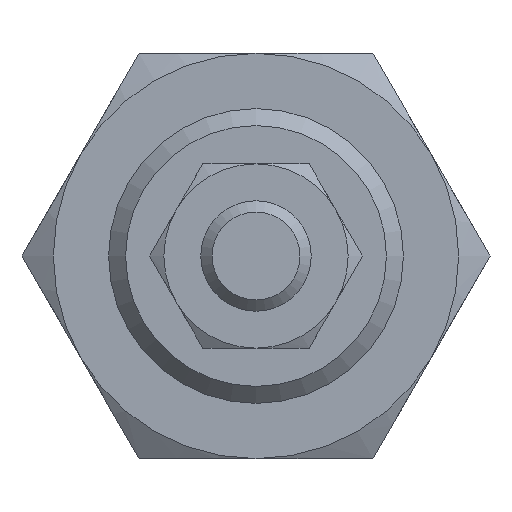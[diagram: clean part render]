
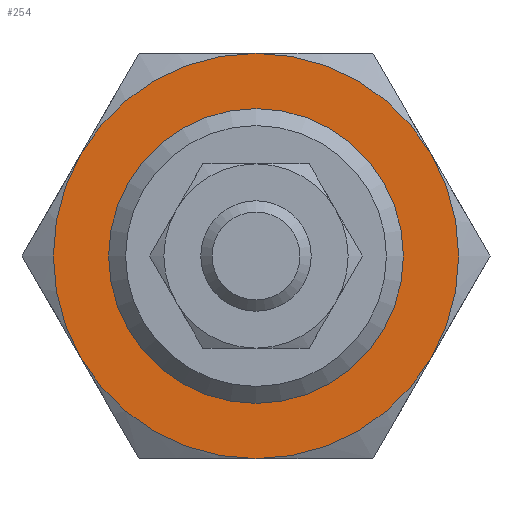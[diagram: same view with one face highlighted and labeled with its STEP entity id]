
A CAD part, left-side view. The second image highlights one B-rep face of the part: STEP entity #254.
In plain terms, the highlighted planar face has unit normal (-1, 0, 0).
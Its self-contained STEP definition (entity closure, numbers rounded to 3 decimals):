
#254 = ADVANCED_FACE( '', ( #586, #587 ), #588, .F. );
#586 = FACE_OUTER_BOUND( '', #1030, .T. );
#587 = FACE_BOUND( '', #1031, .T. );
#588 = PLANE( '', #1032 );
#1030 = EDGE_LOOP( '', ( #1593, #1594, #1595, #1596, #1597, #1598 ) );
#1031 = EDGE_LOOP( '', ( #1599 ) );
#1032 = AXIS2_PLACEMENT_3D( '', #1600, #1601, #1602 );
#1593 = ORIENTED_EDGE( '', *, *, #2437, .F. );
#1594 = ORIENTED_EDGE( '', *, *, #2488, .F. );
#1595 = ORIENTED_EDGE( '', *, *, #2526, .F. );
#1596 = ORIENTED_EDGE( '', *, *, #2527, .F. );
#1597 = ORIENTED_EDGE( '', *, *, #2528, .F. );
#1598 = ORIENTED_EDGE( '', *, *, #2529, .F. );
#1599 = ORIENTED_EDGE( '', *, *, #2530, .T. );
#1600 = CARTESIAN_POINT( '', ( -10., 0., 0. ) );
#1601 = DIRECTION( '', ( 1., 0., 0. ) );
#1602 = DIRECTION( '', ( 0., 0., -1. ) );
#2437 = EDGE_CURVE( '', #2856, #2854, #2858, .T. );
#2488 = EDGE_CURVE( '', #2942, #2856, #2944, .T. );
#2526 = EDGE_CURVE( '', #2947, #2942, #3009, .T. );
#2527 = EDGE_CURVE( '', #3010, #2947, #3011, .T. );
#2528 = EDGE_CURVE( '', #3012, #3010, #3013, .T. );
#2529 = EDGE_CURVE( '', #2854, #3012, #3014, .T. );
#2530 = EDGE_CURVE( '', #3015, #3015, #3016, .T. );
#2854 = VERTEX_POINT( '', #3447 );
#2856 = VERTEX_POINT( '', #3454 );
#2858 = CIRCLE( '', #3463, 11. );
#2942 = VERTEX_POINT( '', #3616 );
#2944 = CIRCLE( '', #3625, 11. );
#2947 = VERTEX_POINT( '', #3628 );
#3009 = CIRCLE( '', #3749, 11. );
#3010 = VERTEX_POINT( '', #3750 );
#3011 = CIRCLE( '', #3751, 11. );
#3012 = VERTEX_POINT( '', #3752 );
#3013 = CIRCLE( '', #3753, 11. );
#3014 = CIRCLE( '', #3754, 11. );
#3015 = VERTEX_POINT( '', #3755 );
#3016 = CIRCLE( '', #3756, 8. );
#3447 = CARTESIAN_POINT( '', ( -10., 9.526, 5.5 ) );
#3454 = CARTESIAN_POINT( '', ( -10., 9.526, -5.5 ) );
#3463 = AXIS2_PLACEMENT_3D( '', #4375, #4376, #4377 );
#3616 = CARTESIAN_POINT( '', ( -10., 0., -11. ) );
#3625 = AXIS2_PLACEMENT_3D( '', #4429, #4430, #4431 );
#3628 = CARTESIAN_POINT( '', ( -10., -9.526, -5.5 ) );
#3749 = AXIS2_PLACEMENT_3D( '', #4459, #4460, #4461 );
#3750 = CARTESIAN_POINT( '', ( -10., -9.526, 5.5 ) );
#3751 = AXIS2_PLACEMENT_3D( '', #4462, #4463, #4464 );
#3752 = CARTESIAN_POINT( '', ( -10., 0., 11. ) );
#3753 = AXIS2_PLACEMENT_3D( '', #4465, #4466, #4467 );
#3754 = AXIS2_PLACEMENT_3D( '', #4468, #4469, #4470 );
#3755 = CARTESIAN_POINT( '', ( -10., 0., -8. ) );
#3756 = AXIS2_PLACEMENT_3D( '', #4471, #4472, #4473 );
#4375 = CARTESIAN_POINT( '', ( -10., 0., 0. ) );
#4376 = DIRECTION( '', ( 1., 0., 0. ) );
#4377 = DIRECTION( '', ( 0., 0., -1. ) );
#4429 = CARTESIAN_POINT( '', ( -10., 0., 0. ) );
#4430 = DIRECTION( '', ( 1., 0., 0. ) );
#4431 = DIRECTION( '', ( 0., 0., -1. ) );
#4459 = CARTESIAN_POINT( '', ( -10., 0., 0. ) );
#4460 = DIRECTION( '', ( 1., 0., 0. ) );
#4461 = DIRECTION( '', ( 0., 0., -1. ) );
#4462 = CARTESIAN_POINT( '', ( -10., 0., 0. ) );
#4463 = DIRECTION( '', ( 1., 0., 0. ) );
#4464 = DIRECTION( '', ( 0., 0., -1. ) );
#4465 = CARTESIAN_POINT( '', ( -10., 0., 0. ) );
#4466 = DIRECTION( '', ( 1., 0., 0. ) );
#4467 = DIRECTION( '', ( 0., 0., -1. ) );
#4468 = CARTESIAN_POINT( '', ( -10., 0., 0. ) );
#4469 = DIRECTION( '', ( 1., 0., 0. ) );
#4470 = DIRECTION( '', ( 0., 0., -1. ) );
#4471 = CARTESIAN_POINT( '', ( -10., 0., 0. ) );
#4472 = DIRECTION( '', ( 1., 0., 0. ) );
#4473 = DIRECTION( '', ( 0., 0., -1. ) );
